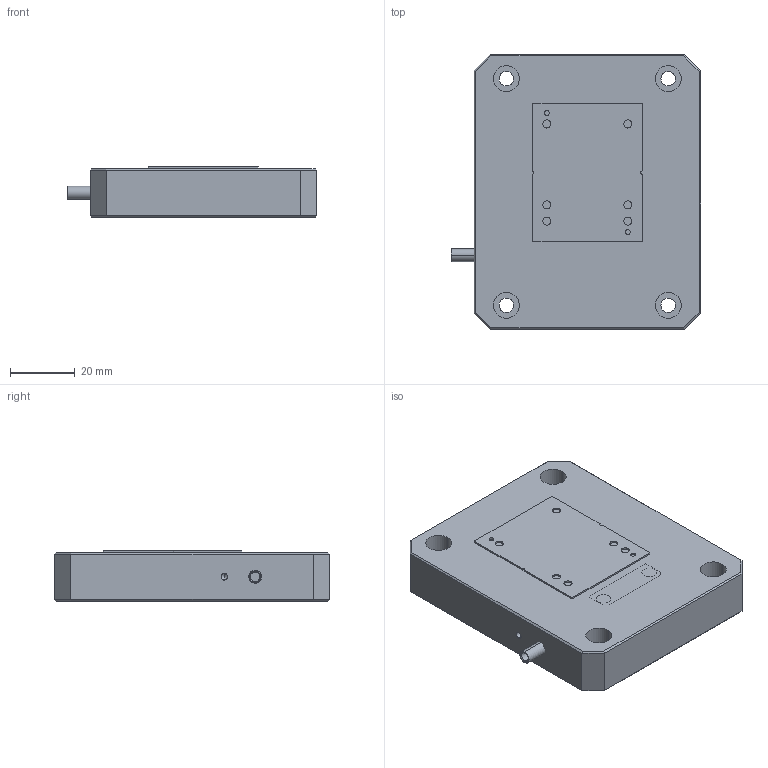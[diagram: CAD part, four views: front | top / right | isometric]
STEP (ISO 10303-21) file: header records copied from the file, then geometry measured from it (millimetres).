
FILE_DESCRIPTION (( 'STEP AP203' ), '1' );
FILE_NAME ('P66.X5K-B1蚾饜极24.05.07.STEP', '2025-04-01T01:15:34', ( 'Windows User' ), ( 'P R C' ), 'SwSTEP 2.0', 'SolidWorks 2021', '' );
FILE_SCHEMA (( 'CONFIG_CONTROL_DESIGN' ));
Length unit declared in the file: millimetre
Products named in the file (1): P66.X5K-B1蚾饜极24.05.07
Bounding box: 77 x 85 x 15.5 mm (x, y, z)
Volume: 82269.4 mm3; surface area: 30086 mm2
Topology: 15 solids, 15 shells, 518 faces, 1297 edges, 817 vertices
Faces by surface type: plane 246, cylinder 190, cone 80, torus 2
Entity records: 15405 total; most frequent: DIRECTION 2758, CARTESIAN_POINT 2633, ORIENTED_EDGE 2550, EDGE_CURVE 1275, AXIS2_PLACEMENT_3D 966, LINE 826, VECTOR 826, VERTEX_POINT 817
